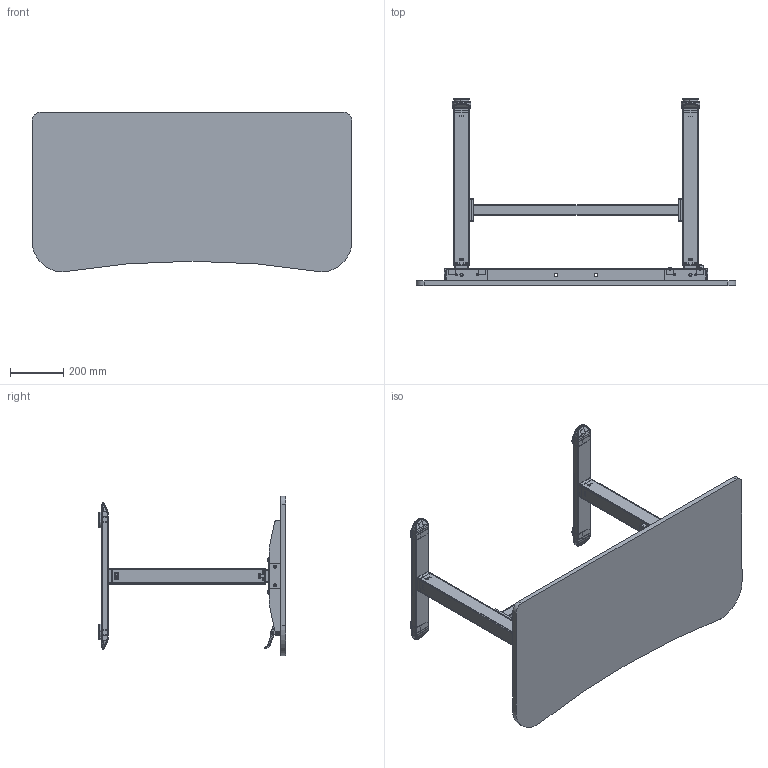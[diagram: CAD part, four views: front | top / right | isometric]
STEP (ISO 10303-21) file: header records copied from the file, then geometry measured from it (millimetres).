
FILE_DESCRIPTION(('CATIA V5 STEP Exchange'),'2;1');
FILE_NAME('C:\Users\nbfly\Desktop\AK-MR-P07-4澳柯款双腿气动桌-小款48‘’-王锋整理\产品STP\ASM-AK-MR-P07-4.stp','2022-02-14T01:54:37+00:00',('none'),('none'),'CATIA Version 5 Release 21 GA (IN-10)','CATIA V5 STEP AP203','none');
FILE_SCHEMA(('CONFIG_CONTROL_DESIGN'));
Products named in the file (9): AK-MR-P07-4澳柯小款双腿气动桌; 气动桌升降桌腿-澳柯款; 上管焊接件-V4; 滑轮组件; 下管（澳柯款气动桌）; asm-气弹簧; 压头; 连接梁-V3; UL-KS-02.1扣手体
Assembly tree (68 placements, depth 5):
  AK-MR-P07-4澳柯小款双腿气动桌
    #58  x2
    #1848  x4
    #11079  x2
    #12309  x4
    #18509  x2
    #18862  x2
    #21619  x2
    #22474  x2
    #22739  x2
    气动桌升降桌腿-澳柯款  x2
      上管焊接件-V4
        #23636
        #26969
      滑轮组件
        #32070
        #41621
        #41826  x2
      下管（澳柯款气动桌）
        #42086
        #43127
        #43946
        #44221
        #45713
      #46293
      asm-气弹簧
        压头
          #58254
          #59765
          #64919
    连接梁-V3
      #65343
      #65918  x2
    #66785
    UL-KS-02.1扣手体
      #67837
      #70045
      #75319
      #81877
      #82109
    #82962  x6
    #84372  x2
    #85012
    #85035
Bounding box: 1200 x 704.4 x 599.86 mm (x, y, z)
Volume: 14951483.1 mm3; surface area: 3928001.3 mm2
Topology: 83 solids, 95 shells, 6478 faces, 17222 edges, 10814 vertices
Faces by surface type: cylinder 2749, plane 2262, bspline 888, cone 366, sphere 158, torus 52, revolution 3
Entity records: 84633 total; most frequent: CARTESIAN_POINT 32350, ORIENTED_EDGE 11850, DIRECTION 8489, EDGE_CURVE 5928, VERTEX_POINT 3815, AXIS2_PLACEMENT_3D 3390, VECTOR 3066, LINE 3066
